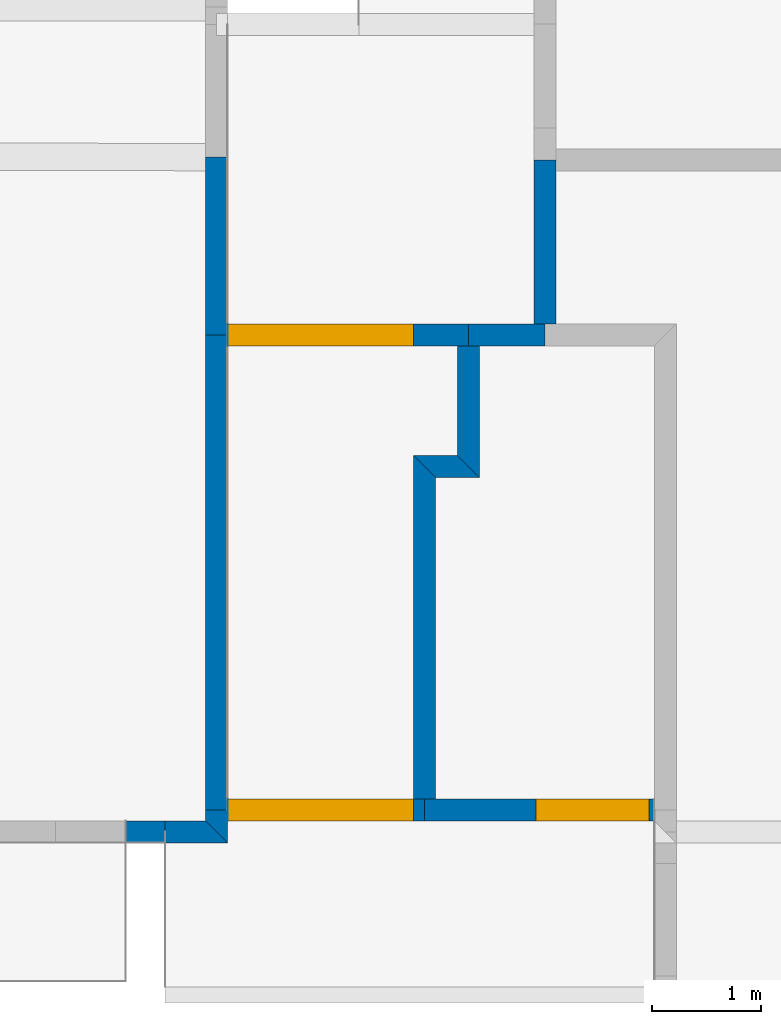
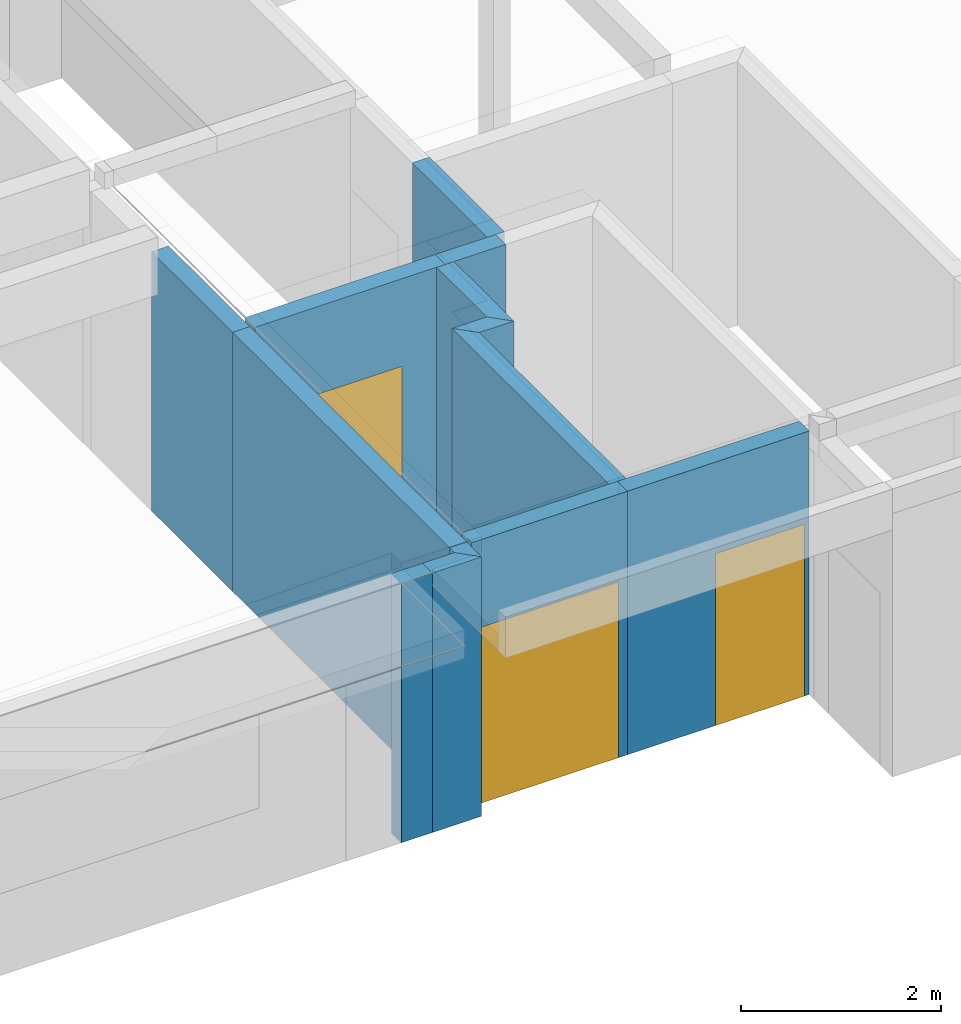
# One storey, part 14 of 17: 15 walls, 3 doors, 3 openings.
"""IFC2X3 building model written with IfcOpenShell, lengths in metres."""

from ifc_helpers import new_model, si_unit, direction, frame, origin_with_axes, origin_2d, place, context, subcontext, project, spatial, polyline, rectangle, outline, extrude, material, layer, layer_set, layer_usage, type_object, element, fill, save


model = new_model("IFC2X3")

# Units and contexts
model_context = context("Model", 3, precision=0.0001, world=origin_with_axes(), true_north=direction((0.0, 1.0)))
plan_context = context("Plan", 2, precision=0.0001, world=origin_with_axes(), true_north=direction((0.0, 1.0)))
body_context = subcontext(model_context, "Body", "Model", "MODEL_VIEW")
ifc_project = project(units=[si_unit("MASSUNIT", "GRAM", prefix="KILO"), si_unit("AREAUNIT", "SQUARE_METRE"), si_unit("LENGTHUNIT", "METRE"), si_unit("VOLUMEUNIT", "CUBIC_METRE")], contexts=[plan_context, model_context])

# Site, building, storey
site_placement = place(None, origin_with_axes())
site = spatial("IfcSite", under=ifc_project, at=site_placement, Name="$", CompositionType="ELEMENT")
building_placement = place(site_placement, origin_with_axes())
building = spatial("IfcBuilding", under=site, at=building_placement, Name="Classeur ENS Ensemble", CompositionType="ELEMENT")
storey_placement = place(building_placement, frame((-20.30778888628, -1.812671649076, 0.0), z_axis=(0.0, 0.0, 1.0), x_axis=(1.0, 0.0, 0.0)))
storey = spatial("IfcBuildingStorey", under=building, at=storey_placement, Name="001 RdC", CompositionType="ELEMENT", Elevation=0.0)

# Walls
ifc_material_1 = material(Name="voile BA 20 cm")
ifc_layer_1 = layer(ifc_material_1, 0.2000000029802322)
ifc_layer_set_1 = layer_set([ifc_layer_1], Name="voile BA 20 cm+")
ifc_layer_usage_1 = layer_usage(ifc_layer_set_1, "AXIS2", "POSITIVE", -0.1000000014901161)
wall_type = type_object("IfcWallType", PredefinedType="STANDARD")
wall_1_placement = place(storey_placement, frame((34.38329531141, -7.027328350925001, -0.119999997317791), z_axis=(0.0, 0.0, 1.0), x_axis=(0.0, 1.0, 0.0)))
element("IfcWall", 1, at=wall_1_placement, inside=storey, type_object=wall_type, material=ifc_layer_usage_1, Name="voile BA 20 cm", context=body_context, shape_type="SweptSolid", held_by="IfcProductRepresentation", body=[
    extrude(outline(polyline([(0.1000000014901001, 0.1000000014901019), (0.1000000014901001, 0.1000000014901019), (0.1000000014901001, 0.1000000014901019), (1.600000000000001, 0.1000000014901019), (1.600000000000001, 0.1000000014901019), (1.600000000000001, 0.1000000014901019), (1.600000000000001, -0.1000000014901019), (1.4999999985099, -0.1000000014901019), (1.4999999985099, -0.1000000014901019), (0.1000000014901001, -0.1000000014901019), (0.1000000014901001, -0.1000000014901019), (0.1000000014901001, -0.1000000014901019), (0.1000000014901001, 0.1000000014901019)])), origin_with_axes(), (0.0, 0.0, 1.0), 3.220000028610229),
])
ifc_material_2 = material(Name="voile BA 20 cm")
ifc_layer_2 = layer(ifc_material_2, 0.2000000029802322)
ifc_layer_set_2 = layer_set([ifc_layer_2], Name="voile BA 20 cm+")
ifc_layer_usage_2 = layer_usage(ifc_layer_set_2, "AXIS2", "POSITIVE", -0.1000000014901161)
wall_2_placement = place(storey_placement, frame((33.68329531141, -8.227328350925, -0.119999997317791), z_axis=(0.0, 0.0, 1.0), x_axis=(0.0, 1.0, 0.0)))
element("IfcWall", 2, at=wall_2_placement, inside=storey, type_object=wall_type, material=ifc_layer_usage_2, Name="voile BA 20 cm", context=body_context, shape_type="SweptSolid", held_by="IfcProductRepresentation", body=[
    extrude(outline(polyline([(0.1000000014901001, 0.1000000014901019), (0.1000000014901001, 0.1000000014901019), (0.1000000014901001, 0.1000000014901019), (1.099999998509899, 0.1000000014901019), (1.099999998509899, 0.1000000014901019), (1.099999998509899, 0.1000000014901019), (1.099999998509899, -0.1000000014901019), (1.099999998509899, -0.1000000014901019), (1.099999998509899, -0.1000000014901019), (-0.1000000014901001, -0.1000000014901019), (-0.1000000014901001, -0.1000000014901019), (-0.1000000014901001, -0.1000000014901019), (0.1000000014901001, 0.1000000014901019)])), origin_with_axes(), (0.0, 0.0, 1.0), 3.220000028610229),
])
ifc_material_3 = material(Name="voile BA 20 cm")
ifc_layer_3 = layer(ifc_material_3, 0.2000000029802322)
ifc_layer_set_3 = layer_set([ifc_layer_3], Name="voile BA 20 cm+")
ifc_layer_usage_3 = layer_usage(ifc_layer_set_3, "AXIS2", "POSITIVE", -0.1000000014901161)
wall_3_placement = place(storey_placement, frame((33.28329531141, -8.227328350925, -0.119999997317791), z_axis=(0.0, 0.0, 1.0), x_axis=(1.0, 0.0, 0.0)))
element("IfcWall", 3, at=wall_3_placement, inside=storey, type_object=wall_type, material=ifc_layer_usage_3, Name="voile BA 20 cm", context=body_context, shape_type="SweptSolid", held_by="IfcProductRepresentation", body=[
    extrude(outline(polyline([(-0.1000000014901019, 0.1000000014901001), (-0.1000000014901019, 0.1000000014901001), (-0.1000000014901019, 0.1000000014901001), (0.2999999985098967, 0.1000000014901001), (0.2999999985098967, 0.1000000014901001), (0.2999999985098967, 0.1000000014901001), (0.5000000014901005, -0.1000000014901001), (0.5000000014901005, -0.1000000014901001), (0.5000000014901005, -0.1000000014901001), (0.1000000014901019, -0.1000000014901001), (0.1000000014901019, -0.1000000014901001), (0.1000000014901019, -0.1000000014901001), (-0.1000000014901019, 0.1000000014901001)])), origin_with_axes(), (0.0, 0.0, 1.0), 3.220000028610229),
])
ifc_material_4 = material(Name="voile BA 20 cm")
ifc_layer_4 = layer(ifc_material_4, 0.2000000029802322)
ifc_layer_set_4 = layer_set([ifc_layer_4], Name="voile BA 20 cm+")
ifc_layer_usage_4 = layer_usage(ifc_layer_set_4, "AXIS2", "POSITIVE", -0.1000000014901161)
wall_4_placement = place(storey_placement, frame((33.28329531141, -11.36732835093, -0.119999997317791), z_axis=(0.0, 0.0, 1.0), x_axis=(0.0, 1.0, 0.0)))
element("IfcWall", 4, at=wall_4_placement, inside=storey, type_object=wall_type, material=ifc_layer_usage_4, Name="voile BA 20 cm", context=body_context, shape_type="SweptSolid", held_by="IfcProductRepresentation", body=[
    extrude(outline(polyline([(0.1000000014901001, 0.1000000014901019), (0.1000000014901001, 0.1000000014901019), (0.1000000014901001, 0.1000000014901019), (3.240000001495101, 0.1000000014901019), (3.240000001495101, 0.1000000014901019), (3.240000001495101, 0.1000000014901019), (3.039999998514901, -0.1000000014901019), (3.039999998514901, -0.1000000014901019), (3.039999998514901, -0.1000000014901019), (0.1000000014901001, -0.1000000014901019), (0.1000000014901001, -0.1000000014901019), (0.1000000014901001, -0.1000000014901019), (0.1000000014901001, 0.1000000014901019)])), origin_with_axes(), (0.0, 0.0, 1.0), 3.220000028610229),
])
ifc_material_5 = material(Name="voile BA 20 cm")
ifc_layer_5 = layer(ifc_material_5, 0.2000000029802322)
ifc_layer_set_5 = layer_set([ifc_layer_5], Name="voile BA 20 cm+")
ifc_layer_usage_5 = layer_usage(ifc_layer_set_5, "AXIS2", "POSITIVE", -0.1000000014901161)
wall_5_placement = place(storey_placement, frame((31.38329531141, -11.36732835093, 0.0), z_axis=(0.0, 0.0, 1.0), x_axis=(1.0, 0.0, 0.0)))
element("IfcWall", 5, at=wall_5_placement, inside=storey, type_object=wall_type, material=ifc_layer_usage_5, Name="voile BA 20 cm", context=body_context, shape_type="SweptSolid", held_by="IfcProductRepresentation", body=[
    extrude(outline(polyline([(0.1000000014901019, 0.1000000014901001), (0.1000000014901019, 0.1000000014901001), (0.1000000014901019, 0.1000000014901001), (0.09999999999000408, 0.1000000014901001), (0.09999999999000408, 0.1000000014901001), (0.09999999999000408, 0.1000000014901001), (0.09999999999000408, -0.1000000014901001), (0.09999999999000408, -0.1000000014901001), (0.09999999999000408, -0.1000000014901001), (0.1000000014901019, -0.1000000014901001), (0.1000000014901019, -0.1000000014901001), (0.1000000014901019, -0.1000000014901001), (0.1000000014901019, 0.1000000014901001)])), origin_with_axes(), (0.0, 0.0, 1.0), 3.099999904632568),
])
ifc_material_6 = material(Name="voile BA 20 cm")
ifc_layer_6 = layer(ifc_material_6, 0.2000000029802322)
ifc_layer_set_6 = layer_set([ifc_layer_6], Name="voile BA 20 cm+")
ifc_layer_usage_6 = layer_usage(ifc_layer_set_6, "AXIS2", "POSITIVE", -0.1000000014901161)
wall_6_placement = place(storey_placement, frame((31.38329531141, -11.56732835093, -0.119999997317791), z_axis=(0.0, 0.0, 1.0), x_axis=(0.0, 1.0, 0.0)))
element("IfcWall", 6, at=wall_6_placement, inside=storey, type_object=wall_type, material=ifc_layer_usage_6, Name="voile BA 20 cm", context=body_context, shape_type="SweptSolid", held_by="IfcProductRepresentation", body=[
    extrude(outline(polyline([(0.1000000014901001, 0.1000000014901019), (0.1000000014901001, 0.1000000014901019), (0.1000000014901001, 0.1000000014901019), (0.1999999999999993, 0.1000000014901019), (0.1999999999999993, 0.1000000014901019), (0.1999999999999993, 0.1000000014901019), (0.1999999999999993, -0.1000000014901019), (0.09999999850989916, -0.1000000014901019), (0.09999999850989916, -0.1000000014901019), (-0.1000000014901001, -0.1000000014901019), (-0.1000000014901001, -0.1000000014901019), (-0.1000000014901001, -0.1000000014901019), (0.1000000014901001, 0.1000000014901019)])), origin_with_axes(), (0.0, 0.0, 1.0), 3.170000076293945),
])
ifc_material_7 = material(Name="voile BA 20 cm")
ifc_layer_7 = layer(ifc_material_7, 0.2000000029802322)
ifc_layer_set_7 = layer_set([ifc_layer_7], Name="voile BA 20 cm+")
ifc_layer_usage_7 = layer_usage(ifc_layer_set_7, "AXIS2", "POSITIVE", -0.1000000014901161)
wall_7_placement = place(storey_placement, frame((31.38329531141, -11.36732835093, -0.119999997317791), z_axis=(0.0, 0.0, 1.0), x_axis=(0.0, 1.0, 0.0)))
element("IfcWall", 7, at=wall_7_placement, inside=storey, type_object=wall_type, material=ifc_layer_usage_7, Name="voile BA 20 cm", context=body_context, shape_type="SweptSolid", held_by="IfcProductRepresentation", body=[
    extrude(outline(polyline([(0.0, 0.1000000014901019), (0.0, 0.1000000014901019), (0.0, 0.1000000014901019), (4.340000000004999, 0.1000000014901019), (4.340000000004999, 0.1000000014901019), (4.340000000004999, 0.1000000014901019), (4.340000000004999, -0.1000000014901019), (4.2399999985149, -0.1000000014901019), (4.2399999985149, -0.1000000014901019), (0.1000000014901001, -0.1000000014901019), (0.1000000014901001, -0.1000000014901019), (0.0, -0.1000000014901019), (0.0, 0.1000000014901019)])), origin_with_axes(), (0.0, 0.0, 1.0), 3.170000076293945),
])
ifc_material_8 = material(Name="voile BA 20 cm")
ifc_layer_8 = layer(ifc_material_8, 0.2000000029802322)
ifc_layer_set_8 = layer_set([ifc_layer_8], Name="voile BA 20 cm+")
ifc_layer_usage_8 = layer_usage(ifc_layer_set_8, "AXIS2", "POSITIVE", -0.1000000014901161)
wall_8_placement = place(storey_placement, frame((31.38329531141, -7.027328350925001, 0.0), z_axis=(0.0, 0.0, 1.0), x_axis=(1.0, 0.0, 0.0)))
element("IfcWall", 8, at=wall_8_placement, inside=storey, type_object=wall_type, material=ifc_layer_usage_8, Name="voile BA 20 cm", context=body_context, shape_type="SweptSolid", held_by="IfcProductRepresentation", body=[
    extrude(outline(polyline([(0.1000000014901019, 0.1000000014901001), (0.1000000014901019, 0.1000000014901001), (0.1000000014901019, 0.1000000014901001), (0.09999999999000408, 0.1000000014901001), (0.09999999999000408, 0.1000000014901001), (0.09999999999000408, 0.1000000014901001), (0.09999999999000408, -0.1000000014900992), (0.09999999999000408, -0.1000000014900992), (0.09999999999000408, -0.1000000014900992), (0.1000000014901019, -0.1000000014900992), (0.1000000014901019, -0.1000000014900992), (0.1000000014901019, -0.1000000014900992), (0.1000000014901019, 0.1000000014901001)])), origin_with_axes(), (0.0, 0.0, 1.0), 3.099999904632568),
])
ifc_material_9 = material(Name="voile BA 20 cm")
ifc_layer_9 = layer(ifc_material_9, 0.2000000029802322)
ifc_layer_set_9 = layer_set([ifc_layer_9], Name="voile BA 20 cm+")
ifc_layer_usage_9 = layer_usage(ifc_layer_set_9, "AXIS2", "POSITIVE", -0.1000000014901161)
wall_9_placement = place(storey_placement, frame((31.38329531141, -7.027328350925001, -0.119999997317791), z_axis=(0.0, 0.0, 1.0), x_axis=(0.0, 1.0, 0.0)))
element("IfcWall", 9, at=wall_9_placement, inside=storey, type_object=wall_type, material=ifc_layer_usage_9, Name="voile BA 20 cm", context=body_context, shape_type="SweptSolid", held_by="IfcProductRepresentation", body=[
    extrude(outline(polyline([(0.0, 0.1000000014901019), (0.0, 0.1000000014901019), (0.0, 0.1000000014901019), (1.624821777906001, 0.1000000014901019), (1.624821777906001, 0.1000000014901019), (1.624821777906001, 0.1000000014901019), (1.624821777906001, -0.1000000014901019), (1.624821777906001, -0.1000000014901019), (1.624821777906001, -0.1000000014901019), (0.1000000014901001, -0.1000000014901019), (0.1000000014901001, -0.1000000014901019), (0.0, -0.1000000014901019), (0.0, 0.1000000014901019)])), origin_with_axes(), (0.0, 0.0, 1.0), 3.170000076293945),
])

# Wall, opening, door
ifc_material_10 = material(Name="voile BA 20 cm")
ifc_layer_10 = layer(ifc_material_10, 0.2000000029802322)
ifc_layer_set_10 = layer_set([ifc_layer_10], Name="voile BA 20 cm+")
ifc_layer_usage_10 = layer_usage(ifc_layer_set_10, "AXIS2", "POSITIVE", -0.1000000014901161)
wall_10_placement = place(storey_placement, frame((33.28329531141, -11.36732835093, -0.119999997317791), z_axis=(0.0, 0.0, 1.0), x_axis=(1.0, 0.0, 0.0)))
wall_10 = element("IfcWall", 10, at=wall_10_placement, inside=storey, type_object=wall_type, material=ifc_layer_usage_10, Name="voile BA 20 cm", context=body_context, shape_type="SweptSolid", held_by="IfcProductRepresentation", body=[
    extrude(outline(polyline([(0.0, 0.1000000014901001), (0.1000000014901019, 0.1000000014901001), (0.1000000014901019, 0.1000000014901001), (2.099999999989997, 0.1000000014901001), (2.099999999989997, 0.1000000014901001), (2.099999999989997, 0.1000000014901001), (2.099999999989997, -0.1000000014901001), (2.099999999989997, -0.1000000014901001), (2.099999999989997, -0.1000000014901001), (0.0, -0.1000000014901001), (0.0, -0.1000000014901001), (0.0, -0.1000000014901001), (0.0, 0.1000000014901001)])), origin_with_axes(), (0.0, 0.0, 1.0), 3.220000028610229),
])
opening_1_placement = place(wall_10_placement, frame((1.533444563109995, 0.1000000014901, -2.682209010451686e-09), z_axis=(0.0, 0.0, 1.0), x_axis=(1.0, 0.0, 0.0)))
opening_1 = element("IfcOpeningElement", 11, at=opening_1_placement, cuts=wall_10, Name="PS 103 x 210", context=body_context, shape_type="SweptSolid", held_by="IfcProductRepresentation", body=[
    extrude(rectangle(XDim=1.029999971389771, YDim=2.099999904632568, at=origin_2d()), frame((0.0, 0.0, 1.049999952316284), z_axis=(0.0, -1.0, 0.0), x_axis=(1.0, 0.0, 0.0)), (0.0, 0.0, 1.0), 0.2000000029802),
])
door_1_placement = place(opening_1_placement, origin_with_axes())
door_1 = element("IfcDoor", 12, at=door_1_placement, inside=storey, Name="PS 103 x 210", OverallHeight=2.099999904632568, OverallWidth=1.029999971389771, context=body_context, shape_type="SweptSolid", held_by="IfcProductRepresentation", body=[
    extrude(rectangle(XDim=1.029999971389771, YDim=2.099999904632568, at=origin_2d()), frame((0.0, 0.0, 1.049999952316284), z_axis=(0.0, -1.0, 0.0), x_axis=(1.0, 0.0, 0.0)), (0.0, 0.0, 1.0), 0.2000000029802),
])
fill(opening_1, door_1)

# Wall
ifc_material_11 = material(Name="voile BA 20 cm")
ifc_layer_11 = layer(ifc_material_11, 0.2000000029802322)
ifc_layer_set_11 = layer_set([ifc_layer_11], Name="voile BA 20 cm+")
ifc_layer_usage_11 = layer_usage(ifc_layer_set_11, "AXIS2", "POSITIVE", -0.1000000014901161)
wall_11_placement = place(storey_placement, frame((33.68329531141, -7.027328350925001, -0.119999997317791), z_axis=(0.0, 0.0, 1.0), x_axis=(1.0, 0.0, 0.0)))
element("IfcWall", 13, at=wall_11_placement, inside=storey, type_object=wall_type, material=ifc_layer_usage_11, Name="voile BA 20 cm", context=body_context, shape_type="SweptSolid", held_by="IfcProductRepresentation", body=[
    extrude(outline(polyline([(0.0, 0.1000000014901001), (0.0, 0.1000000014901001), (0.0, 0.1000000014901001), (0.5999999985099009, 0.1000000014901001), (0.5999999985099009, 0.1000000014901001), (0.7000000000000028, 0.1000000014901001), (0.7000000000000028, -0.1000000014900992), (0.7000000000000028, -0.1000000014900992), (0.7000000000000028, -0.1000000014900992), (0.1000000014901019, -0.1000000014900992), (0.1000000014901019, -0.1000000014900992), (0.0, -0.1000000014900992), (0.0, 0.1000000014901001)])), origin_with_axes(), (0.0, 0.0, 1.0), 3.220000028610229),
])

# Wall, opening, door
ifc_material_12 = material(Name="voile BA 20 cm")
ifc_layer_12 = layer(ifc_material_12, 0.2000000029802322)
ifc_layer_set_12 = layer_set([ifc_layer_12], Name="voile BA 20 cm+")
ifc_layer_usage_12 = layer_usage(ifc_layer_set_12, "AXIS2", "POSITIVE", -0.1000000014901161)
wall_12_placement = place(storey_placement, frame((31.4832953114, -7.027328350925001, -0.119999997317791), z_axis=(0.0, 0.0, 1.0), x_axis=(1.0, 0.0, 0.0)))
wall_12 = element("IfcWall", 14, at=wall_12_placement, inside=storey, type_object=wall_type, material=ifc_layer_usage_12, Name="voile BA 20 cm", context=body_context, shape_type="SweptSolid", held_by="IfcProductRepresentation", body=[
    extrude(outline(polyline([(0.0, 0.1000000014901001), (0.0, 0.1000000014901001), (0.0, 0.1000000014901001), (2.200000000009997, 0.1000000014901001), (2.200000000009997, 0.1000000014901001), (2.200000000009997, 0.1000000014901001), (2.200000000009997, -0.1000000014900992), (2.099999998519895, -0.1000000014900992), (2.099999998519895, -0.1000000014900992), (0.0, -0.1000000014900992), (0.0, -0.1000000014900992), (0.0, -0.1000000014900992), (0.0, 0.1000000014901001)])), origin_with_axes(), (0.0, 0.0, 1.0), 3.220000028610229),
])
opening_2_placement = place(wall_12_placement, frame((0.8488667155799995, 0.1000000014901, -2.682209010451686e-09), z_axis=(0.0, 0.0, 1.0), x_axis=(1.0, 0.0, 0.0)))
opening_2 = element("IfcOpeningElement", 15, at=opening_2_placement, cuts=wall_12, Name="BL 170 x 215", context=body_context, shape_type="SweptSolid", held_by="IfcProductRepresentation", body=[
    extrude(rectangle(XDim=1.700000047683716, YDim=2.150000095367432, at=origin_2d()), frame((0.0, 0.0, 1.075000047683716), z_axis=(0.0, -1.0, 0.0), x_axis=(1.0, 0.0, 0.0)), (0.0, 0.0, 1.0), 0.2000000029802),
])
door_2_placement = place(opening_2_placement, origin_with_axes())
door_2 = element("IfcDoor", 16, at=door_2_placement, inside=storey, Name="BL 170 x 215", OverallHeight=2.150000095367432, OverallWidth=1.700000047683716, context=body_context, shape_type="SweptSolid", held_by="IfcProductRepresentation", body=[
    extrude(rectangle(XDim=1.700000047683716, YDim=2.150000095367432, at=origin_2d()), frame((0.0, 0.0, 1.075000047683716), z_axis=(0.0, -1.0, 0.0), x_axis=(1.0, 0.0, 0.0)), (0.0, 0.0, 1.0), 0.2000000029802),
])
fill(opening_2, door_2)

ifc_material_13 = material(Name="voile BA 20 cm")
ifc_layer_13 = layer(ifc_material_13, 0.2000000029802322)
ifc_layer_set_13 = layer_set([ifc_layer_13], Name="voile BA 20 cm+")
ifc_layer_usage_13 = layer_usage(ifc_layer_set_13, "AXIS2", "POSITIVE", -0.1000000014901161)
wall_13_placement = place(storey_placement, frame((31.4832953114, -11.36732835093, -0.119999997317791), z_axis=(0.0, 0.0, 1.0), x_axis=(1.0, 0.0, 0.0)))
wall_13 = element("IfcWall", 17, at=wall_13_placement, inside=storey, type_object=wall_type, material=ifc_layer_usage_13, Name="voile BA 20 cm", context=body_context, shape_type="SweptSolid", held_by="IfcProductRepresentation", body=[
    extrude(outline(polyline([(0.0, 0.1000000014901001), (0.0, 0.1000000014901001), (0.0, 0.1000000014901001), (1.699999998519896, 0.1000000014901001), (1.699999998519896, 0.1000000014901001), (1.800000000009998, 0.1000000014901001), (1.800000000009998, -0.1000000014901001), (1.800000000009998, -0.1000000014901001), (1.800000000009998, -0.1000000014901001), (0.0, -0.1000000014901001), (0.0, -0.1000000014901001), (0.0, -0.1000000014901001), (0.0, 0.1000000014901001)])), origin_with_axes(), (0.0, 0.0, 1.0), 3.220000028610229),
])
opening_3_placement = place(wall_13_placement, frame((0.8473668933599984, 0.1000000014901, -2.682209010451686e-09), z_axis=(0.0, 0.0, 1.0), x_axis=(1.0, 0.0, 0.0)))
opening_3 = element("IfcOpeningElement", 18, at=opening_3_placement, cuts=wall_13, Name="BL 170 x 215", context=body_context, shape_type="SweptSolid", held_by="IfcProductRepresentation", body=[
    extrude(rectangle(XDim=1.700000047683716, YDim=2.150000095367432, at=origin_2d()), frame((0.0, 0.0, 1.075000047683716), z_axis=(0.0, -1.0, 0.0), x_axis=(1.0, 0.0, 0.0)), (0.0, 0.0, 1.0), 0.2000000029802),
])
door_3_placement = place(opening_3_placement, origin_with_axes())
door_3 = element("IfcDoor", 19, at=door_3_placement, inside=storey, Name="BL 170 x 215", OverallHeight=2.150000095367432, OverallWidth=1.700000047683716, context=body_context, shape_type="SweptSolid", held_by="IfcProductRepresentation", body=[
    extrude(rectangle(XDim=1.700000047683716, YDim=2.150000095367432, at=origin_2d()), frame((0.0, 0.0, 1.075000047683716), z_axis=(0.0, -1.0, 0.0), x_axis=(1.0, 0.0, 0.0)), (0.0, 0.0, 1.0), 0.2000000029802),
])
fill(opening_3, door_3)

# Walls
ifc_material_14 = material(Name="voile BA 20 cm")
ifc_layer_14 = layer(ifc_material_14, 0.2000000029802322)
ifc_layer_set_14 = layer_set([ifc_layer_14], Name="voile BA 20 cm+")
ifc_layer_usage_14 = layer_usage(ifc_layer_set_14, "AXIS2", "POSITIVE", -0.1000000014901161)
wall_14_placement = place(storey_placement, frame((30.91421373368, -11.56732835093, -0.119999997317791), z_axis=(0.0, 0.0, 1.0), x_axis=(1.0, 0.0, 0.0)))
element("IfcWall", 20, at=wall_14_placement, inside=storey, type_object=wall_type, material=ifc_layer_usage_14, Name="voile BA 20 cm", context=body_context, shape_type="SweptSolid", held_by="IfcProductRepresentation", body=[
    extrude(outline(polyline([(0.0, 0.1000000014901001), (0.0, 0.1000000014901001), (0.0, 0.1000000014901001), (0.3690815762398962, 0.1000000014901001), (0.3690815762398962, 0.1000000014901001), (0.3690815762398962, 0.1000000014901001), (0.5690815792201, -0.1000000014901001), (0.5690815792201, -0.1000000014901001), (0.5690815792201, -0.1000000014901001), (0.0, -0.1000000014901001), (0.0, -0.1000000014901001), (0.0, -0.1000000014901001), (0.0, 0.1000000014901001)])), origin_with_axes(), (0.0, 0.0, 1.0), 3.170000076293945),
])
ifc_material_15 = material(Name="voile BA 20 cm")
ifc_layer_15 = layer(ifc_material_15, 0.2000000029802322)
ifc_layer_set_15 = layer_set([ifc_layer_15], Name="voile BA 20 cm+")
ifc_layer_usage_15 = layer_usage(ifc_layer_set_15, "AXIS2", "POSITIVE", -0.1000000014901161)
wall_15_placement = place(storey_placement, frame((30.5532953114, -11.56732835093, -0.119999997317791), z_axis=(0.0, 0.0, 1.0), x_axis=(0.9999999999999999, 0.0, 0.0)))
element("IfcWall", 21, at=wall_15_placement, inside=storey, type_object=wall_type, material=ifc_layer_usage_15, Name="voile BA 20 cm", context=body_context, shape_type="SweptSolid", held_by="IfcProductRepresentation", body=[
    extrude(outline(polyline([(0.0, 0.1000000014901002), (0.0, 0.1000000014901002), (0.0, 0.1000000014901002), (0.3609184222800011, 0.1000000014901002), (0.3609184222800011, 0.1000000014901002), (0.3609184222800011, 0.1000000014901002), (0.3609184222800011, -0.1000000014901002), (0.3609184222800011, -0.1000000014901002), (0.3609184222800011, -0.1000000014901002), (0.0, -0.1000000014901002), (0.0, -0.1000000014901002), (0.0, -0.1000000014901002), (0.0, 0.1000000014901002)])), origin_with_axes(), (0.0, 0.0, 1.0), 3.170000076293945),
])

save(model, "model.ifc")
